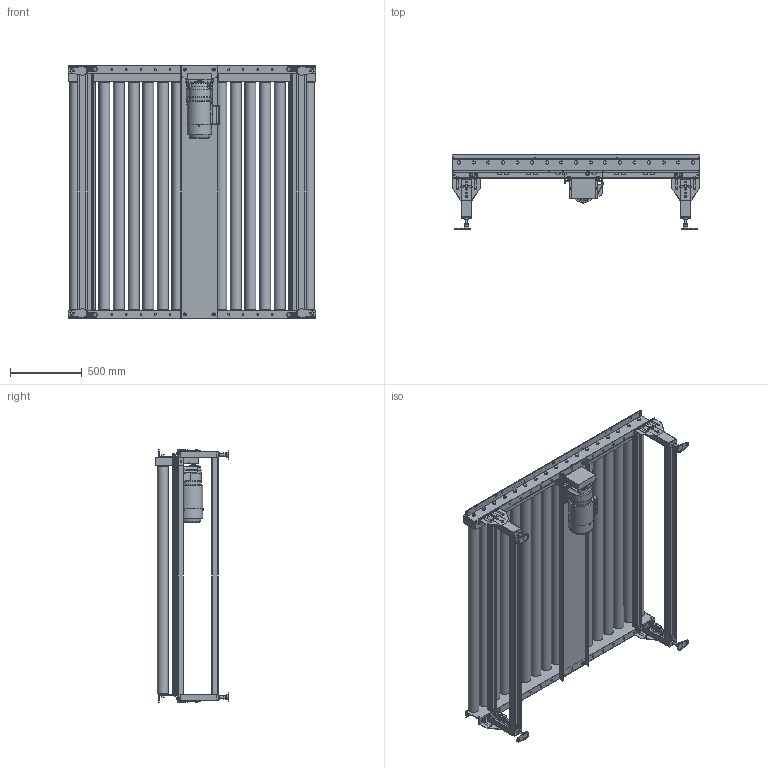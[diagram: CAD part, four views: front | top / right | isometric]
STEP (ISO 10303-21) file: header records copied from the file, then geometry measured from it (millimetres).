
FILE_DESCRIPTION( (''), '2;1');
FILE_NAME ('WEB-MHR-76-AUD-3-075-1700-100-173-L-16S.stp','2026-01-20T08:42:31',(''),(''),'spGate 20.6.2 (****-****-****-****)','','');
FILE_SCHEMA (('AUTOMOTIVE_DESIGN'));
Length unit declared in the file: millimetre
Products named in the file (43): WEB-MHR-76-AUD-3-075-1700-100-173-L-16S; TEMP_X_T-prt0; TEMP_X_T-prt1; TEMP_X_T-prt2; TEMP_X_T-prt3; TEMP_X_T-prt4; TEMP_X_T-prt5; TEMP_X_T-prt6; TEMP_X_T-prt7; TEMP_X_T-prt8; TEMP_X_T-prt9; TEMP_X_T-prt10; TEMP_X_T-prt11; TEMP_X_T-prt12; TEMP_X_T-prt13; TEMP_X_T-prt14; TEMP_X_T-prt15; TEMP_X_T-prt16; TEMP_X_T-prt17; TEMP_X_T-prt18; TEMP_X_T-prt19; TEMP_X_T-prt20; TEMP_X_T-prt21; TEMP_X_T-prt22; TEMP_X_T-prt23; TEMP_X_T-prt24; TEMP_X_T-prt25; TEMP_X_T-prt26; TEMP_X_T-prt27; TEMP_X_T-prt28; TEMP_X_T-prt29; TEMP_X_T-prt30; TEMP_X_T-prt31; TEMP_X_T-prt32; TEMP_X_T-prt33; TEMP_X_T-prt34; TEMP_X_T-prt35; TEMP_X_T-prt36; TEMP_X_T-prt37; TEMP_X_T-prt38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
Assembly tree (42 placements, depth 2):
  WEB-MHR-76-AUD-3-075-1700-100-173-L-16S
    TEMP_X_T-prt0
    TEMP_X_T-prt1
    TEMP_X_T-prt2
    TEMP_X_T-prt3
    TEMP_X_T-prt4
    TEMP_X_T-prt5
    TEMP_X_T-prt6
    TEMP_X_T-prt7
    TEMP_X_T-prt8
    TEMP_X_T-prt9
    TEMP_X_T-prt10
    TEMP_X_T-prt11
    TEMP_X_T-prt12
    TEMP_X_T-prt13
    TEMP_X_T-prt14
    TEMP_X_T-prt15
    TEMP_X_T-prt16
    TEMP_X_T-prt17
    TEMP_X_T-prt18
    TEMP_X_T-prt19
    TEMP_X_T-prt20
    TEMP_X_T-prt21
    TEMP_X_T-prt22
    TEMP_X_T-prt23
    TEMP_X_T-prt24
    TEMP_X_T-prt25
    TEMP_X_T-prt26
    TEMP_X_T-prt27
    TEMP_X_T-prt28
    TEMP_X_T-prt29
    TEMP_X_T-prt30
    TEMP_X_T-prt31
    TEMP_X_T-prt32
    TEMP_X_T-prt33
    TEMP_X_T-prt34
    TEMP_X_T-prt35
    TEMP_X_T-prt36
    TEMP_X_T-prt37
    TEMP_X_T-prt38
    TEMP_X_T-prt39
    TEMP_X_T-prt40
    TEMP_X_T-prt41
Bounding box: 1730 x 515 x 1763.2 mm (x, y, z)
Volume: 161943597.2 mm3; surface area: 14208005.4 mm2
Topology: 42 solids, 50 shells, 2772 faces, 7114 edges, 4819 vertices
Faces by surface type: plane 2077, cylinder 650, bspline 25, sphere 20
Full cylindrical faces by diameter (mm): 4 x16, 4.2 x4, 4.7 x4, 5 x12, 6 x18, 7 x17, 8 x3, 9 x4, 9.2 x6, 10 x48, 10.5 x20, 11 x50, 11.8 x4, 12 x43, 12.2 x8, 12.5 x8, 13 x48, 16 x8, 18.4 x24, 20 x34, 21 x16, 21.5 x35, 24 x1, 27 x1, 28 x1, 31 x1, 49 x34, 63 x1, 74 x34, 76.3 x17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
Entity records: 144609 total; most frequent: CARTESIAN_POINT 16693, DIRECTION 14671, ORIENTED_EDGE 14188, COLOUR_RGB 9908, PRESENTATION_STYLE_ASSIGNMENT 9908, STYLED_ITEM 9908, EDGE_CURVE 7094, DRAUGHTING_PRE_DEFINED_CURVE_FONT 7094
